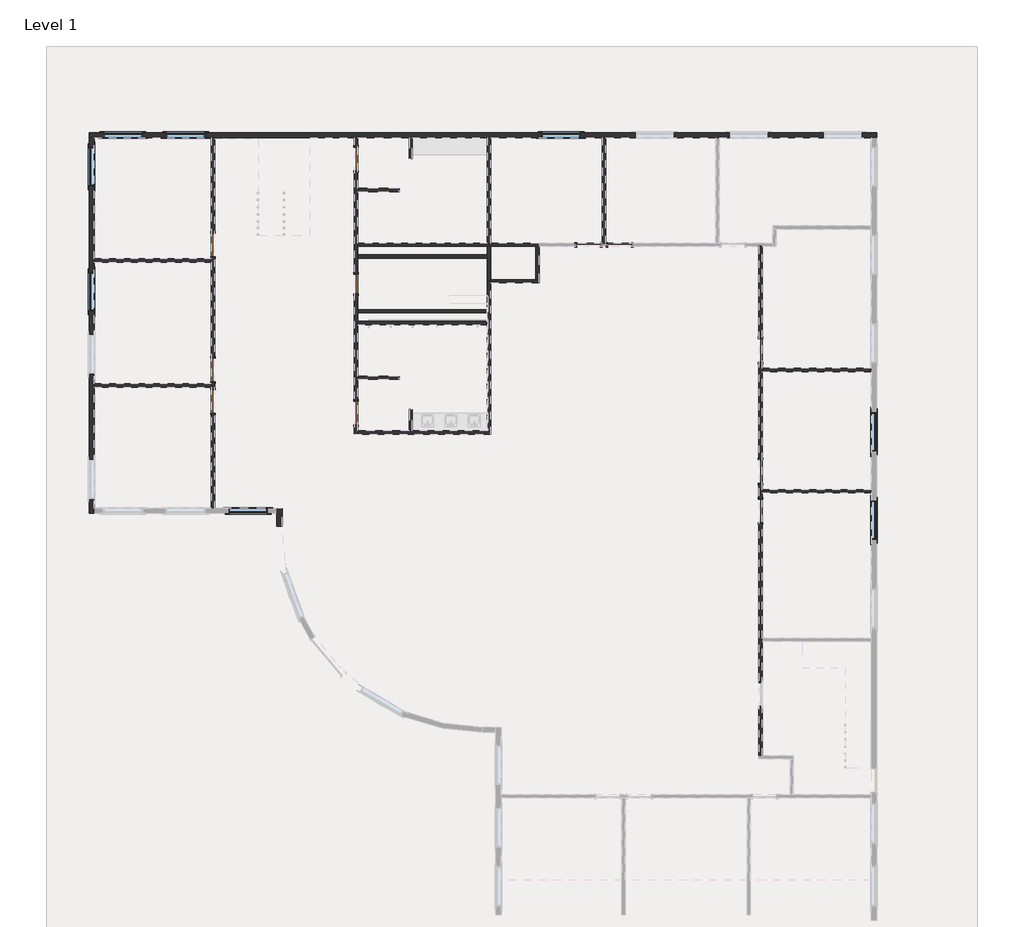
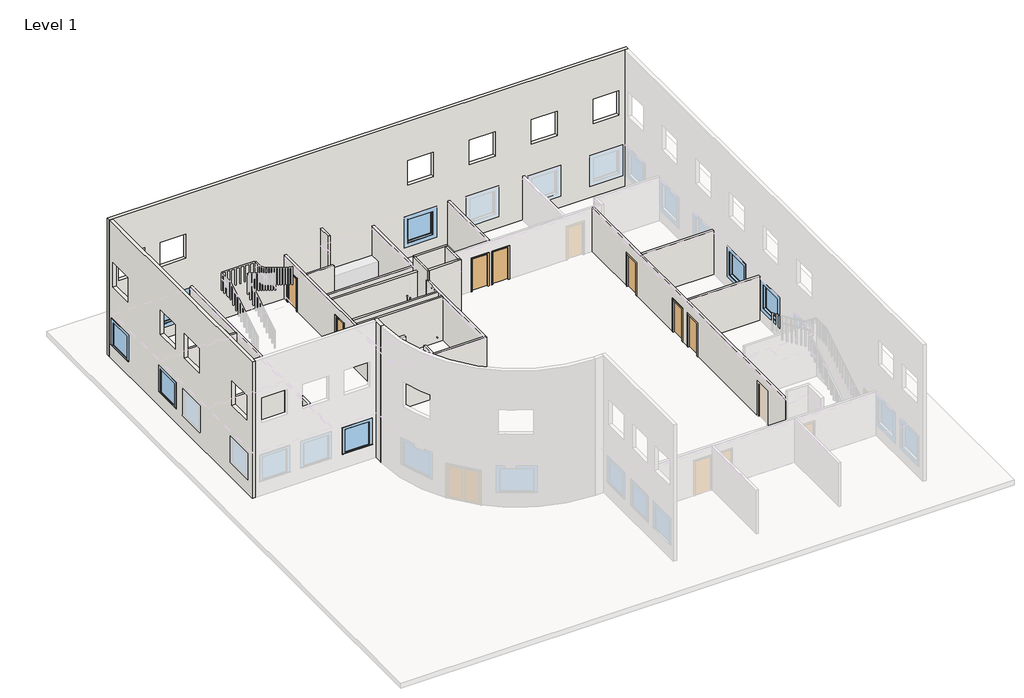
# One storey, part 2 of 4: 26 walls, 11 doors, 8 windows.
"""IFC4 building model written with IfcOpenShell, lengths in millimetres."""

from ifc_helpers import new_model, si_unit, origin, origin_with_axes, place, context, project, spatial, polyline, outline, extrude, faceted_brep, transform, mapped, element, save
from components import door_e36758a9, door_5c18bfee, door_bc81e0a2, door_eb9f8b14, door_88503111, fixed_51c72f20, fixed_edddcce4

model = new_model("IFC4")

# Units and contexts
model_context = context("Model", 3, world=origin())
ifc_project = project(units=[si_unit("LENGTHUNIT", "METRE", prefix="MILLI")], contexts=[model_context])

# Site, building, storey
site = spatial("IfcSite", under=ifc_project)
building = spatial("IfcBuilding", under=site)
storey = spatial("IfcBuildingStorey", under=building, Name="Level 1", Elevation=0.0)

# Doors
placement = place(None, origin())
door_shape = door_e36758a9(model_context)
element("IfcDoor", 1, ObjectType="Sgl Flush : 30\" x 84\"", at=placement, inside=storey, context=model_context, shape_type="MappedRepresentation", body=[
    mapped(door_shape, transform((5292.7157496, 9301.6099268, 0.0), x_axis=(0.0, 1.0, 0.0), y_axis=(-1.0, 0.0, 0.0), z_axis=(0.0, 0.0, 1.0))),
])
door_2_shape = door_5c18bfee(model_context)
element("IfcDoor", 2, ObjectType="Sgl Flush : 36\" x 80\"", at=placement, inside=storey, context=model_context, shape_type="MappedRepresentation", body=[
    mapped(door_2_shape, transform((5292.7157496, 14178.4099268, 0.0), x_axis=(0.0, 1.0, 0.0), y_axis=(-1.0, 0.0, 0.0), z_axis=(0.0, 0.0, 1.0))),
])
element("IfcDoor", 3, ObjectType="Sgl Flush : 36\" x 80\"", at=placement, inside=storey, context=model_context, shape_type="MappedRepresentation", body=[
    mapped(door_2_shape, transform((15567.0157496, 10825.6099268, 0.0), x_axis=(-1.0, 0.0, 0.0), y_axis=(0.0, -1.0, 0.0), z_axis=(0.0, 0.0, 1.0))),
])
element("IfcDoor", 4, ObjectType="Sgl Flush : 36\" x 80\"", at=placement, inside=storey, context=model_context, shape_type="MappedRepresentation", body=[
    mapped(door_2_shape, transform((21053.4157496, 462.4099268, 0.0), x_axis=(0.0, 1.0, 0.0), y_axis=(-1.0, 0.0, 0.0), z_axis=(0.0, 0.0, 1.0))),
])
door_3_shape = door_bc81e0a2(model_context)
element("IfcDoor", 5, ObjectType="Sgl Flush : 36\" x 80\"", at=placement, inside=storey, context=model_context, shape_type="MappedRepresentation", body=[
    mapped(door_3_shape, transform((5292.7157496, 4272.4099268, 0.0), x_axis=(0.0, -1.0, 0.0), y_axis=(1.0, 0.0, 0.0), z_axis=(0.0, 0.0, 1.0))),
])
element("IfcDoor", 6, ObjectType="Sgl Flush : 36\" x 80\"", at=placement, inside=storey, context=model_context, shape_type="MappedRepresentation", body=[
    mapped(door_3_shape, transform((14347.8157496, 10825.6099268, 0.0), x_axis=(1.0, 0.0, 0.0), y_axis=(0.0, 1.0, 0.0), z_axis=(0.0, 0.0, 1.0))),
])
element("IfcDoor", 7, ObjectType="Sgl Flush : 36\" x 80\"", at=placement, inside=storey, context=model_context, shape_type="MappedRepresentation", body=[
    mapped(door_3_shape, transform((21053.4157496, 6710.8099268, 0.0), x_axis=(0.0, -1.0, 0.0), y_axis=(1.0, 0.0, 0.0), z_axis=(0.0, 0.0, 1.0))),
])
element("IfcDoor", 8, ObjectType="Sgl Flush : 36\" x 80\"", at=placement, inside=storey, context=model_context, shape_type="MappedRepresentation", body=[
    mapped(door_3_shape, transform((21053.4157496, 1986.4099268, 0.0), x_axis=(0.0, -1.0, 0.0), y_axis=(1.0, 0.0, 0.0), z_axis=(0.0, 0.0, 1.0))),
])
door_4_shape = door_eb9f8b14(model_context)
element("IfcDoor", 9, ObjectType="Sgl Flush : 36\" x 84\"", at=placement, inside=storey, context=model_context, shape_type="MappedRepresentation", body=[
    mapped(door_4_shape, transform((-282.5842504, 10825.6099268, 0.0), x_axis=(0.0, -1.0, 0.0), y_axis=(1.0, 0.0, 0.0), z_axis=(0.0, 0.0, 1.0))),
])
element("IfcDoor", 10, ObjectType="Sgl Flush : 36\" x 84\"", at=placement, inside=storey, context=model_context, shape_type="MappedRepresentation", body=[
    mapped(door_4_shape, transform((-282.5842504, 5948.8099268, 0.0), x_axis=(0.0, -1.0, 0.0), y_axis=(1.0, 0.0, 0.0), z_axis=(0.0, 0.0, 1.0))),
])
door_5_shape = door_88503111(model_context)
element("IfcDoor", 11, ObjectType="Sgl Flush : 36\" x 84\"", at=placement, inside=storey, context=model_context, shape_type="MappedRepresentation", body=[
    mapped(door_5_shape, transform((-282.5842504, 4729.6099268, 0.0), x_axis=(0.0, 1.0, 0.0), y_axis=(-1.0, 0.0, 0.0), z_axis=(0.0, 0.0, 1.0))),
])

# Walls
element("IfcWall", 12, ObjectType="Generic - 8\"", at=placement, inside=storey, context=model_context, shape_type="Brep", body=[
    faceted_brep([(-5108.5842504, 14991.2099268, 0.0), (25371.4157496, 14991.2099268, 0.0), (25574.6157496, 14991.2099268, 0.0), (25574.6157496, 14991.2099268, 8534.4), (25371.4157496, 14991.2099268, 8534.4), (-5108.5842504, 14991.2099268, 8534.4), (25015.8157496, 14991.2099268, 2438.4), (25015.8157496, 14991.2099268, 914.4), (23491.8157496, 14991.2099268, 914.4), (23491.8157496, 14991.2099268, 2438.4), (21358.2157496, 14991.2099268, 2438.4), (21358.2157496, 14991.2099268, 914.4), (19834.2157496, 14991.2099268, 914.4), (19834.2157496, 14991.2099268, 2438.4), (17700.6157496, 14991.2099268, 2438.4), (17700.6157496, 14991.2099268, 914.4), (16176.6157496, 14991.2099268, 914.4), (16176.6157496, 14991.2099268, 2438.4), (12519.0157496, 14991.2099268, 2438.4), (14043.0157496, 14991.2099268, 2438.4), (14043.0157496, 14991.2099268, 914.4), (12519.0157496, 14991.2099268, 914.4), (-3025.7842504, 14991.2099268, 2438.4), (-3025.7842504, 14991.2099268, 914.4), (-4549.7842504, 14991.2099268, 914.4), (-4549.7842504, 14991.2099268, 2438.4), (-587.3842504, 14991.2099268, 2438.4), (-587.3842504, 14991.2099268, 914.4), (-2111.3842504, 14991.2099268, 914.4), (-2111.3842504, 14991.2099268, 2438.4), (-3025.7842504, 14991.2099268, 6096.0), (-3025.7842504, 14991.2099268, 4572.0), (-4549.7842504, 14991.2099268, 4572.0), (-4549.7842504, 14991.2099268, 6096.0), (-587.3842504, 14991.2099268, 6096.0), (-587.3842504, 14991.2099268, 4572.0), (-2111.3842504, 14991.2099268, 4572.0), (-2111.3842504, 14991.2099268, 6096.0), (14043.0157496, 14991.2099268, 6096.0), (14043.0157496, 14991.2099268, 4572.0), (12519.0157496, 14991.2099268, 4572.0), (12519.0157496, 14991.2099268, 6096.0), (17700.6157496, 14991.2099268, 6096.0), (17700.6157496, 14991.2099268, 4572.0), (16176.6157496, 14991.2099268, 4572.0), (16176.6157496, 14991.2099268, 6096.0), (21358.2157496, 14991.2099268, 6096.0), (21358.2157496, 14991.2099268, 4572.0), (19834.2157496, 14991.2099268, 4572.0), (19834.2157496, 14991.2099268, 6096.0), (25015.8157496, 14991.2099268, 6096.0), (25015.8157496, 14991.2099268, 4572.0), (23491.8157496, 14991.2099268, 4572.0), (23491.8157496, 14991.2099268, 6096.0), (-5108.5842504, 15194.4099268, 0.0), (-5108.5842504, 15194.4099268, 8534.4), (25574.6157496, 15194.4099268, 8534.4), (25574.6157496, 15194.4099268, 0.0), (25015.8157496, 15194.4099268, 2438.4), (23491.8157496, 15194.4099268, 2438.4), (23491.8157496, 15194.4099268, 914.4), (25015.8157496, 15194.4099268, 914.4), (21358.2157496, 15194.4099268, 2438.4), (19834.2157496, 15194.4099268, 2438.4), (19834.2157496, 15194.4099268, 914.4), (21358.2157496, 15194.4099268, 914.4), (17700.6157496, 15194.4099268, 2438.4), (16176.6157496, 15194.4099268, 2438.4), (16176.6157496, 15194.4099268, 914.4), (17700.6157496, 15194.4099268, 914.4), (12519.0157496, 15194.4099268, 2438.4), (12519.0157496, 15194.4099268, 914.4), (14043.0157496, 15194.4099268, 914.4), (14043.0157496, 15194.4099268, 2438.4), (-3025.7842504, 15194.4099268, 2438.4), (-4549.7842504, 15194.4099268, 2438.4), (-4549.7842504, 15194.4099268, 914.4), (-3025.7842504, 15194.4099268, 914.4), (-587.3842504, 15194.4099268, 2438.4), (-2111.3842504, 15194.4099268, 2438.4), (-2111.3842504, 15194.4099268, 914.4), (-587.3842504, 15194.4099268, 914.4), (-3025.7842504, 15194.4099268, 6096.0), (-4549.7842504, 15194.4099268, 6096.0), (-4549.7842504, 15194.4099268, 4572.0), (-3025.7842504, 15194.4099268, 4572.0), (-587.3842504, 15194.4099268, 6096.0), (-2111.3842504, 15194.4099268, 6096.0), (-2111.3842504, 15194.4099268, 4572.0), (-587.3842504, 15194.4099268, 4572.0), (14043.0157496, 15194.4099268, 6096.0), (12519.0157496, 15194.4099268, 6096.0), (12519.0157496, 15194.4099268, 4572.0), (14043.0157496, 15194.4099268, 4572.0), (17700.6157496, 15194.4099268, 6096.0), (16176.6157496, 15194.4099268, 6096.0), (16176.6157496, 15194.4099268, 4572.0), (17700.6157496, 15194.4099268, 4572.0), (21358.2157496, 15194.4099268, 6096.0), (19834.2157496, 15194.4099268, 6096.0), (19834.2157496, 15194.4099268, 4572.0), (21358.2157496, 15194.4099268, 4572.0), (25015.8157496, 15194.4099268, 6096.0), (23491.8157496, 15194.4099268, 6096.0), (23491.8157496, 15194.4099268, 4572.0), (25015.8157496, 15194.4099268, 4572.0)], [[[0, 1, 2, 3, 4, 5], [6, 7, 8, 9], [10, 11, 12, 13], [14, 15, 16, 17], [18, 19, 20, 21], [22, 23, 24, 25], [26, 27, 28, 29], [30, 31, 32, 33], [34, 35, 36, 37], [38, 39, 40, 41], [42, 43, 44, 45], [46, 47, 48, 49], [50, 51, 52, 53]], [[54, 55, 56, 57], [58, 59, 60, 61], [62, 63, 64, 65], [66, 67, 68, 69], [70, 71, 72, 73], [74, 75, 76, 77], [78, 79, 80, 81], [82, 83, 84, 85], [86, 87, 88, 89], [90, 91, 92, 93], [94, 95, 96, 97], [98, 99, 100, 101], [102, 103, 104, 105]], [[2, 1, 0, 54, 57]], [[5, 4, 3, 56, 55]], [[3, 2, 57, 56]], [[0, 5, 55, 54]], [[7, 6, 58, 61]], [[8, 7, 61, 60]], [[9, 8, 60, 59]], [[6, 9, 59, 58]], [[11, 10, 62, 65]], [[12, 11, 65, 64]], [[13, 12, 64, 63]], [[10, 13, 63, 62]], [[15, 14, 66, 69]], [[16, 15, 69, 68]], [[17, 16, 68, 67]], [[14, 17, 67, 66]], [[71, 70, 18, 21]], [[72, 71, 21, 20]], [[73, 72, 20, 19]], [[70, 73, 19, 18]], [[23, 22, 74, 77]], [[24, 23, 77, 76]], [[25, 24, 76, 75]], [[22, 25, 75, 74]], [[27, 26, 78, 81]], [[28, 27, 81, 80]], [[29, 28, 80, 79]], [[26, 29, 79, 78]], [[31, 30, 82, 85]], [[32, 31, 85, 84]], [[33, 32, 84, 83]], [[30, 33, 83, 82]], [[35, 34, 86, 89]], [[36, 35, 89, 88]], [[37, 36, 88, 87]], [[34, 37, 87, 86]], [[39, 38, 90, 93]], [[40, 39, 93, 92]], [[41, 40, 92, 91]], [[38, 41, 91, 90]], [[43, 42, 94, 97]], [[44, 43, 97, 96]], [[45, 44, 96, 95]], [[42, 45, 95, 94]], [[47, 46, 98, 101]], [[48, 47, 101, 100]], [[49, 48, 100, 99]], [[46, 49, 99, 98]], [[51, 50, 102, 105]], [[52, 51, 105, 104]], [[53, 52, 104, 103]], [[50, 53, 103, 102]]]),
])
element("IfcWall", 13, ObjectType="Generic - 8\"", at=placement, inside=storey, context=model_context, shape_type="Brep", body=[
    faceted_brep([(-4905.3842504, 360.8099268, 0.0), (-4905.3842504, 5275.7099268, 0.0), (-4905.3842504, 5402.7099268, 0.0), (-4905.3842504, 10152.5099268, 0.0), (-4905.3842504, 10279.5099268, 0.0), (-4905.3842504, 14991.2099268, 0.0), (-4905.3842504, 14991.2099268, 8534.4), (-4905.3842504, 360.8099268, 8534.4), (-4905.3842504, 13111.6099268, 2438.4), (-4905.3842504, 14635.6099268, 2438.4), (-4905.3842504, 14635.6099268, 914.4), (-4905.3842504, 13111.6099268, 914.4), (-4905.3842504, 8234.8099268, 2438.4), (-4905.3842504, 9758.8099268, 2438.4), (-4905.3842504, 9758.8099268, 914.4), (-4905.3842504, 8234.8099268, 914.4), (-4905.3842504, 5796.4099268, 2438.4), (-4905.3842504, 7320.4099268, 2438.4), (-4905.3842504, 7320.4099268, 914.4), (-4905.3842504, 5796.4099268, 914.4), (-4905.3842504, 919.6099268, 2438.4), (-4905.3842504, 2443.6099268, 2438.4), (-4905.3842504, 2443.6099268, 914.4), (-4905.3842504, 919.6099268, 914.4), (-4905.3842504, 14635.6099268, 6096.0), (-4905.3842504, 14635.6099268, 4572.0), (-4905.3842504, 13111.6099268, 4572.0), (-4905.3842504, 13111.6099268, 6096.0), (-4905.3842504, 8234.8099268, 6096.0), (-4905.3842504, 9758.8099268, 6096.0), (-4905.3842504, 9758.8099268, 4572.0), (-4905.3842504, 8234.8099268, 4572.0), (-4905.3842504, 7320.4099268, 6096.0), (-4905.3842504, 7320.4099268, 4572.0), (-4905.3842504, 5796.4099268, 4572.0), (-4905.3842504, 5796.4099268, 6096.0), (-4905.3842504, 2443.6099268, 6096.0), (-4905.3842504, 2443.6099268, 4572.0), (-4905.3842504, 919.6099268, 4572.0), (-4905.3842504, 919.6099268, 6096.0), (-5108.5842504, 360.8099268, 0.0), (-5108.5842504, 360.8099268, 8534.4), (-5108.5842504, 14991.2099268, 8534.4), (-5108.5842504, 14991.2099268, 0.0), (-5108.5842504, 13111.6099268, 2438.4), (-5108.5842504, 13111.6099268, 914.4), (-5108.5842504, 14635.6099268, 914.4), (-5108.5842504, 14635.6099268, 2438.4), (-5108.5842504, 8234.8099268, 2438.4), (-5108.5842504, 8234.8099268, 914.4), (-5108.5842504, 9758.8099268, 914.4), (-5108.5842504, 9758.8099268, 2438.4), (-5108.5842504, 5796.4099268, 2438.4), (-5108.5842504, 5796.4099268, 914.4), (-5108.5842504, 7320.4099268, 914.4), (-5108.5842504, 7320.4099268, 2438.4), (-5108.5842504, 919.6099268, 2438.4), (-5108.5842504, 919.6099268, 914.4), (-5108.5842504, 2443.6099268, 914.4), (-5108.5842504, 2443.6099268, 2438.4), (-5108.5842504, 14635.6099268, 6096.0), (-5108.5842504, 13111.6099268, 6096.0), (-5108.5842504, 13111.6099268, 4572.0), (-5108.5842504, 14635.6099268, 4572.0), (-5108.5842504, 8234.8099268, 6096.0), (-5108.5842504, 8234.8099268, 4572.0), (-5108.5842504, 9758.8099268, 4572.0), (-5108.5842504, 9758.8099268, 6096.0), (-5108.5842504, 7320.4099268, 6096.0), (-5108.5842504, 5796.4099268, 6096.0), (-5108.5842504, 5796.4099268, 4572.0), (-5108.5842504, 7320.4099268, 4572.0), (-5108.5842504, 2443.6099268, 6096.0), (-5108.5842504, 919.6099268, 6096.0), (-5108.5842504, 919.6099268, 4572.0), (-5108.5842504, 2443.6099268, 4572.0)], [[[0, 1, 2, 3, 4, 5, 6, 7], [8, 9, 10, 11], [12, 13, 14, 15], [16, 17, 18, 19], [20, 21, 22, 23], [24, 25, 26, 27], [28, 29, 30, 31], [32, 33, 34, 35], [36, 37, 38, 39]], [[40, 41, 42, 43], [44, 45, 46, 47], [48, 49, 50, 51], [52, 53, 54, 55], [56, 57, 58, 59], [60, 61, 62, 63], [64, 65, 66, 67], [68, 69, 70, 71], [72, 73, 74, 75]], [[5, 4, 3, 2, 1, 0, 40, 43]], [[7, 6, 42, 41]], [[0, 7, 41, 40]], [[6, 5, 43, 42]], [[45, 44, 8, 11]], [[46, 45, 11, 10]], [[47, 46, 10, 9]], [[44, 47, 9, 8]], [[49, 48, 12, 15]], [[50, 49, 15, 14]], [[51, 50, 14, 13]], [[48, 51, 13, 12]], [[53, 52, 16, 19]], [[54, 53, 19, 18]], [[55, 54, 18, 17]], [[52, 55, 17, 16]], [[57, 56, 20, 23]], [[58, 57, 23, 22]], [[59, 58, 22, 21]], [[56, 59, 21, 20]], [[25, 24, 60, 63]], [[26, 25, 63, 62]], [[27, 26, 62, 61]], [[24, 27, 61, 60]], [[65, 64, 28, 31]], [[66, 65, 31, 30]], [[67, 66, 30, 29]], [[64, 67, 29, 28]], [[33, 32, 68, 71]], [[34, 33, 71, 70]], [[35, 34, 70, 69]], [[32, 35, 69, 68]], [[37, 36, 72, 75]], [[38, 37, 75, 74]], [[39, 38, 74, 73]], [[36, 39, 73, 72]]]),
])
element("IfcWall", 14, ObjectType="Generic - 8\"", at=placement, inside=storey, context=model_context, shape_type="Brep", body=[
    faceted_brep([(2206.6157496, 564.0099268, 0.0), (2206.6157496, 360.8099268, 0.0), (2206.6157496, -147.1900732, 0.0), (2206.6157496, -147.1900732, 8534.4), (2206.6157496, 360.8099268, 8534.4), (2206.6157496, 564.0099268, 8534.4), (2409.8157496, 564.0099268, 0.0), (2409.8157496, 564.0099268, 8534.4), (2409.8157496, -147.1900732, 8534.4), (2409.8157496, -147.1900732, 0.0)], [[[0, 1, 2, 3, 4, 5]], [[6, 7, 8, 9]], [[2, 1, 0, 6, 9]], [[3, 2, 9, 8]], [[5, 4, 3, 8, 7]], [[0, 5, 7, 6]]]),
])
element("IfcWall", 15, ObjectType="Interior - 4 7/8\" Partition (1-hr)", at=placement, inside=storey, context=model_context, shape_type="Brep", body=[
    faceted_brep([(-344.4967504, 5491.6099268, 0.0), (-344.4967504, 5402.7099268, 0.0), (-344.4967504, 5275.7099268, 0.0), (-344.4967504, 5186.8099268, 0.0), (-344.4967504, 5186.8099268, 2133.6), (-344.4967504, 4272.4099268, 2133.6), (-344.4967504, 4272.4099268, 0.0), (-344.4967504, 564.0099268, 0.0), (-344.4967504, 564.0099268, 2743.2), (-344.4967504, 5275.7099268, 2743.2), (-344.4967504, 5402.7099268, 2743.2), (-344.4967504, 10152.5099268, 2743.2), (-344.4967504, 10279.5099268, 2743.2), (-344.4967504, 14991.2099268, 2743.2), (-344.4967504, 14991.2099268, 0.0), (-344.4967504, 11282.8099268, 0.0), (-344.4967504, 11282.8099268, 2133.6), (-344.4967504, 10368.4099268, 2133.6), (-344.4967504, 10368.4099268, 0.0), (-344.4967504, 10279.5099268, 0.0), (-344.4967504, 10152.5099268, 0.0), (-344.4967504, 6406.0099268, 0.0), (-344.4967504, 6406.0099268, 2133.6), (-344.4967504, 5491.6099268, 2133.6), (-220.6717504, 5186.8099268, 2133.6), (-220.6717504, 5186.8099268, 0.0), (-220.6717504, 5491.6099268, 0.0), (-220.6717504, 5491.6099268, 2133.6), (-220.6717504, 6406.0099268, 2133.6), (-220.6717504, 6406.0099268, 0.0), (-220.6717504, 10368.4099268, 0.0), (-220.6717504, 10368.4099268, 2133.6), (-220.6717504, 11282.8099268, 2133.6), (-220.6717504, 11282.8099268, 0.0), (-220.6717504, 14991.2099268, 0.0), (-220.6717504, 14991.2099268, 2743.2), (-220.6717504, 564.0099268, 2743.2), (-220.6717504, 564.0099268, 0.0), (-220.6717504, 4272.4099268, 0.0), (-220.6717504, 4272.4099268, 2133.6)], [[[0, 1, 2, 3, 4, 5, 6, 7, 8, 9, 10, 11, 12, 13, 14, 15, 16, 17, 18, 19, 20, 21, 22, 23]], [[24, 25, 26, 27, 28, 29, 30, 31, 32, 33, 34, 35, 36, 37, 38, 39]], [[26, 25, 3, 2, 1, 0]], [[15, 14, 34, 33]], [[21, 20, 19, 18, 30, 29]], [[38, 37, 7, 6]], [[13, 12, 11, 10, 9, 8, 36, 35]], [[14, 13, 35, 34]], [[8, 7, 37, 36]], [[31, 30, 18, 17]], [[32, 31, 17, 16]], [[33, 32, 16, 15]], [[27, 26, 0, 23]], [[28, 27, 23, 22]], [[29, 28, 22, 21]], [[4, 3, 25, 24]], [[5, 4, 24, 39]], [[6, 5, 39, 38]]]),
])
element("IfcWall", 16, ObjectType="Interior - 5\" Partition (2-hr)", at=placement, inside=storey, context=model_context, shape_type="SweptSolid", body=[
    extrude(outline(polyline([(-344.4967504, 10152.5099268), (-4905.3842504, 10152.5099268), (-4905.3842504, 10279.5099268), (-344.4967504, 10279.5099268), (-344.4967504, 10152.5099268)])), origin_with_axes(), (0.0, 0.0, 1.0), 2743.2),
])
element("IfcWall", 17, ObjectType="Interior - 5\" Partition (2-hr)", at=placement, inside=storey, context=model_context, shape_type="SweptSolid", body=[
    extrude(outline(polyline([(-344.4967504, 5275.7099268), (-4905.3842504, 5275.7099268), (-4905.3842504, 5402.7099268), (-344.4967504, 5402.7099268), (-344.4967504, 5275.7099268)])), origin_with_axes(), (0.0, 0.0, 1.0), 2743.2),
])
element("IfcWall", 18, ObjectType="Interior - 5\" Partition (2-hr)", at=placement, inside=storey, context=model_context, shape_type="Brep", body=[
    faceted_brep([(5229.2157496, 3815.2099268, 2032.0), (5229.2157496, 3815.2099268, 0.0), (5229.2157496, 3446.9099268, 0.0), (5229.2157496, 3446.9099268, 2743.2), (5229.2157496, 14991.2099268, 2743.2), (5229.2157496, 14991.2099268, 0.0), (5229.2157496, 14635.6099268, 0.0), (5229.2157496, 14635.6099268, 2032.0), (5229.2157496, 13721.2099268, 2032.0), (5229.2157496, 13721.2099268, 0.0), (5229.2157496, 9682.6099268, 0.0), (5229.2157496, 9682.6099268, 2133.6), (5229.2157496, 8920.6099268, 2133.6), (5229.2157496, 8920.6099268, 0.0), (5229.2157496, 4729.6099268, 0.0), (5229.2157496, 4729.6099268, 2032.0), (5356.2157496, 3446.9099268, 0.0), (5356.2157496, 3573.9099268, 0.0), (5356.2157496, 3815.2099268, 0.0), (5356.2157496, 3815.2099268, 2032.0), (5356.2157496, 4729.6099268, 2032.0), (5356.2157496, 4729.6099268, 0.0), (5356.2157496, 5580.5099268, 0.0), (5356.2157496, 5707.5099268, 0.0), (5356.2157496, 7714.1099268, 0.0), (5356.2157496, 7841.1099268, 0.0), (5356.2157496, 8171.3099268, 0.0), (5356.2157496, 8298.3099268, 0.0), (5356.2157496, 8920.6099268, 0.0), (5356.2157496, 8920.6099268, 2133.6), (5356.2157496, 9682.6099268, 2133.6), (5356.2157496, 9682.6099268, 0.0), (5356.2157496, 10304.9099268, 0.0), (5356.2157496, 10431.9099268, 0.0), (5356.2157496, 10762.1099268, 0.0), (5356.2157496, 10889.1099268, 0.0), (5356.2157496, 12895.7099268, 0.0), (5356.2157496, 13022.7099268, 0.0), (5356.2157496, 13721.2099268, 0.0), (5356.2157496, 13721.2099268, 2032.0), (5356.2157496, 14635.6099268, 2032.0), (5356.2157496, 14635.6099268, 0.0), (5356.2157496, 14991.2099268, 0.0), (5356.2157496, 14991.2099268, 2743.2), (5356.2157496, 13022.7099268, 2743.2), (5356.2157496, 12895.7099268, 2743.2), (5356.2157496, 10889.1099268, 2743.2), (5356.2157496, 10762.1099268, 2743.2), (5356.2157496, 10431.9099268, 2743.2), (5356.2157496, 10304.9099268, 2743.2), (5356.2157496, 8298.3099268, 2743.2), (5356.2157496, 8171.3099268, 2743.2), (5356.2157496, 7841.1099268, 2743.2), (5356.2157496, 7714.1099268, 2743.2), (5356.2157496, 5707.5099268, 2743.2), (5356.2157496, 5580.5099268, 2743.2), (5356.2157496, 3573.9099268, 2743.2), (5356.2157496, 3446.9099268, 2743.2)], [[[0, 1, 2, 3, 4, 5, 6, 7, 8, 9, 10, 11, 12, 13, 14, 15]], [[16, 17, 18, 19, 20, 21, 22, 23, 24, 25, 26, 27, 28, 29, 30, 31, 32, 33, 34, 35, 36, 37, 38, 39, 40, 41, 42, 43, 44, 45, 46, 47, 48, 49, 50, 51, 52, 53, 54, 55, 56, 57]], [[42, 41, 6, 5]], [[2, 1, 18, 17, 16]], [[38, 37, 36, 35, 34, 33, 32, 31, 10, 9]], [[14, 13, 28, 27, 26, 25, 24, 23, 22, 21]], [[4, 3, 57, 56, 55, 54, 53, 52, 51, 50, 49, 48, 47, 46, 45, 44, 43]], [[3, 2, 16, 57]], [[5, 4, 43, 42]], [[11, 10, 31, 30]], [[12, 11, 30, 29]], [[13, 12, 29, 28]], [[7, 6, 41, 40]], [[8, 7, 40, 39]], [[9, 8, 39, 38]], [[19, 18, 1, 0]], [[20, 19, 0, 15]], [[21, 20, 15, 14]]]),
])
element("IfcWall", 19, ObjectType="Interior - 5\" Partition (2-hr)", at=placement, inside=storey, context=model_context, shape_type="Brep", body=[
    faceted_brep([(10410.8157496, 14991.2099268, 0.0), (10410.8157496, 10889.1099268, 0.0), (10410.8157496, 10889.1099268, 2743.2), (10410.8157496, 14991.2099268, 2743.2), (10537.8157496, 14991.2099268, 0.0), (10537.8157496, 14991.2099268, 2743.2), (10537.8157496, 10889.1099268, 2743.2), (10537.8157496, 10889.1099268, 0.0), (10474.3157496, 10889.1099268, 0.0), (10474.3157496, 10889.1099268, 2743.2)], [[[0, 1, 2, 3]], [[4, 5, 6, 7]], [[1, 0, 4, 7, 8]], [[3, 2, 9, 6, 5]], [[0, 3, 5, 4]], [[2, 1, 8, 7, 6, 9]]]),
])
element("IfcWall", 20, ObjectType="Interior - 5\" Partition (2-hr)", at=placement, inside=storey, context=model_context, shape_type="SweptSolid", body=[
    extrude(outline(polyline([(14893.9157496, 10889.1099268), (14893.9157496, 14991.2099268), (15020.9157496, 14991.2099268), (15020.9157496, 10889.1099268), (14893.9157496, 10889.1099268)])), origin_with_axes(), (0.0, 0.0, 1.0), 2743.2),
])
element("IfcWall", 21, ObjectType="Interior - 5\" Partition (2-hr)", at=placement, inside=storey, context=model_context, shape_type="Brep", body=[
    faceted_brep([(5356.2157496, 10762.1099268, 0.0), (10410.8157496, 10762.1099268, 0.0), (10474.3157496, 10762.1099268, 0.0), (10474.3157496, 10762.1099268, 2743.2), (5356.2157496, 10762.1099268, 2743.2), (5356.2157496, 10889.1099268, 0.0), (5356.2157496, 10889.1099268, 2743.2), (10410.8157496, 10889.1099268, 2743.2), (10474.3157496, 10889.1099268, 2743.2), (10474.3157496, 10889.1099268, 0.0), (10410.8157496, 10889.1099268, 0.0)], [[[0, 1, 2, 3, 4]], [[5, 6, 7, 8, 9, 10]], [[2, 1, 0, 5, 10, 9]], [[3, 2, 9, 8]], [[4, 3, 8, 7, 6]], [[0, 4, 6, 5]]]),
])
element("IfcWall", 22, ObjectType="Interior - 5\" Partition (2-hr)", at=placement, inside=storey, context=model_context, shape_type="Brep", body=[
    faceted_brep([(20989.9157496, 1529.2099268, 0.0), (20989.9157496, 919.6099268, 0.0), (20989.9157496, 919.6099268, 2032.0), (20989.9157496, 5.2099268, 2032.0), (20989.9157496, 5.2099268, 0.0), (20989.9157496, -6243.1900732, 0.0), (20989.9157496, -6243.1900732, 2133.6), (20989.9157496, -7157.5900732, 2133.6), (20989.9157496, -7157.5900732, 0.0), (20989.9157496, -9075.2900732, 0.0), (20989.9157496, -9075.2900732, 2743.2), (20989.9157496, 10762.1099268, 2743.2), (20989.9157496, 10762.1099268, 0.0), (20989.9157496, 7168.0099268, 0.0), (20989.9157496, 7168.0099268, 2032.0), (20989.9157496, 6253.6099268, 2032.0), (20989.9157496, 6253.6099268, 0.0), (20989.9157496, 2443.6099268, 0.0), (20989.9157496, 2443.6099268, 2032.0), (20989.9157496, 1529.2099268, 2032.0), (21116.9157496, 919.6099268, 2032.0), (21116.9157496, 919.6099268, 0.0), (21116.9157496, 1160.9099268, 0.0), (21116.9157496, 1287.9099268, 0.0), (21116.9157496, 1529.2099268, 0.0), (21116.9157496, 1529.2099268, 2032.0), (21116.9157496, 2443.6099268, 2032.0), (21116.9157496, 2443.6099268, 0.0), (21116.9157496, 5885.3099268, 0.0), (21116.9157496, 6012.3099268, 0.0), (21116.9157496, 6253.6099268, 0.0), (21116.9157496, 6253.6099268, 2032.0), (21116.9157496, 7168.0099268, 2032.0), (21116.9157496, 7168.0099268, 0.0), (21116.9157496, 10762.1099268, 0.0), (21116.9157496, 10762.1099268, 2743.2), (21116.9157496, 6012.3099268, 2743.2), (21116.9157496, 5885.3099268, 2743.2), (21116.9157496, 1287.9099268, 2743.2), (21116.9157496, 1160.9099268, 2743.2), (21116.9157496, -9075.2900732, 2743.2), (21116.9157496, -9075.2900732, 0.0), (21116.9157496, -7157.5900732, 0.0), (21116.9157496, -7157.5900732, 2133.6), (21116.9157496, -6243.1900732, 2133.6), (21116.9157496, -6243.1900732, 0.0), (21116.9157496, -4630.2900732, 0.0), (21116.9157496, -4503.2900732, 0.0), (21116.9157496, 5.2099268, 0.0), (21116.9157496, 5.2099268, 2032.0)], [[[0, 1, 2, 3, 4, 5, 6, 7, 8, 9, 10, 11, 12, 13, 14, 15, 16, 17, 18, 19]], [[20, 21, 22, 23, 24, 25, 26, 27, 28, 29, 30, 31, 32, 33, 34, 35, 36, 37, 38, 39, 40, 41, 42, 43, 44, 45, 46, 47, 48, 49]], [[9, 8, 42, 41]], [[24, 23, 22, 21, 1, 0]], [[13, 12, 34, 33]], [[17, 16, 30, 29, 28, 27]], [[48, 47, 46, 45, 5, 4]], [[11, 10, 40, 39, 38, 37, 36, 35]], [[12, 11, 35, 34]], [[10, 9, 41, 40]], [[43, 42, 8, 7]], [[44, 43, 7, 6]], [[45, 44, 6, 5]], [[31, 30, 16, 15]], [[32, 31, 15, 14]], [[33, 32, 14, 13]], [[25, 24, 0, 19]], [[26, 25, 19, 18]], [[27, 26, 18, 17]], [[2, 1, 21, 20]], [[3, 2, 20, 49]], [[4, 3, 49, 48]]]),
])
element("IfcWall", 23, ObjectType="Interior - 5\" Partition (2-hr)", at=placement, inside=storey, context=model_context, shape_type="SweptSolid", body=[
    extrude(outline(polyline([(25371.4157496, 5885.3099268), (21116.9157496, 5885.3099268), (21116.9157496, 6012.3099268), (25371.4157496, 6012.3099268), (25371.4157496, 5885.3099268)])), origin_with_axes(), (0.0, 0.0, 1.0), 2743.2),
])
element("IfcWall", 24, ObjectType="Interior - 5\" Partition (2-hr)", at=placement, inside=storey, context=model_context, shape_type="SweptSolid", body=[
    extrude(outline(polyline([(25371.4157496, 1160.9099268), (21116.9157496, 1160.9099268), (21116.9157496, 1287.9099268), (25371.4157496, 1287.9099268), (25371.4157496, 1160.9099268)])), origin_with_axes(), (0.0, 0.0, 1.0), 2743.2),
])
element("IfcWall", 25, ObjectType="Interior - 5\" Partition (2-hr)", at=placement, inside=storey, context=model_context, shape_type="Brep", body=[
    faceted_brep([(5356.2157496, 3446.9099268, 0.0), (10537.8157496, 3446.9099268, 0.0), (10537.8157496, 3446.9099268, 2743.2), (5356.2157496, 3446.9099268, 2743.2), (5356.2157496, 3573.9099268, 0.0), (5356.2157496, 3573.9099268, 2743.2), (7362.8157496, 3573.9099268, 2743.2), (7489.8157496, 3573.9099268, 2743.2), (10410.8157496, 3573.9099268, 2743.2), (10537.8157496, 3573.9099268, 2743.2), (10537.8157496, 3573.9099268, 0.0), (10410.8157496, 3573.9099268, 0.0), (7489.8157496, 3573.9099268, 0.0), (7362.8157496, 3573.9099268, 0.0)], [[[0, 1, 2, 3]], [[4, 5, 6, 7, 8, 9, 10, 11, 12, 13]], [[1, 0, 4, 13, 12, 11, 10]], [[3, 2, 9, 8, 7, 6, 5]], [[2, 1, 10, 9]], [[0, 3, 5, 4]]]),
])
element("IfcWall", 26, ObjectType="Interior - 5\" Partition (2-hr)", at=placement, inside=storey, context=model_context, shape_type="Brep", body=[
    faceted_brep([(10537.8157496, 3573.9099268, 0.0), (10537.8157496, 9339.7099268, 0.0), (10537.8157496, 9403.2099268, 0.0), (10537.8157496, 9403.2099268, 2743.2), (10537.8157496, 9339.7099268, 2743.2), (10537.8157496, 3573.9099268, 2743.2), (10410.8157496, 3573.9099268, 0.0), (10410.8157496, 3573.9099268, 2743.2), (10410.8157496, 7714.1099268, 2743.2), (10410.8157496, 7841.1099268, 2743.2), (10410.8157496, 8171.3099268, 2743.2), (10410.8157496, 8298.3099268, 2743.2), (10410.8157496, 9339.7099268, 2743.2), (10410.8157496, 9403.2099268, 2743.2), (10410.8157496, 9403.2099268, 0.0), (10410.8157496, 8298.3099268, 0.0), (10410.8157496, 8171.3099268, 0.0), (10410.8157496, 7841.1099268, 0.0), (10410.8157496, 7714.1099268, 0.0)], [[[0, 1, 2, 3, 4, 5]], [[6, 7, 8, 9, 10, 11, 12, 13, 14, 15, 16, 17, 18]], [[2, 1, 0, 6, 18, 17, 16, 15, 14]], [[3, 2, 14, 13]], [[5, 4, 3, 13, 12, 11, 10, 9, 8, 7]], [[0, 5, 7, 6]]]),
])
element("IfcWall", 27, ObjectType="Interior - 5\" Partition (2-hr)", at=placement, inside=storey, context=model_context, shape_type="SweptSolid", body=[
    extrude(outline(polyline([(6969.1157496, 12895.7099268), (5356.2157496, 12895.7099268), (5356.2157496, 13022.7099268), (6969.1157496, 13022.7099268), (6969.1157496, 12895.7099268)])), origin_with_axes(), (0.0, 0.0, 1.0), 2743.2),
])
element("IfcWall", 28, ObjectType="Interior - 5\" Partition (2-hr)", at=placement, inside=storey, context=model_context, shape_type="SweptSolid", body=[
    extrude(outline(polyline([(6969.1157496, 5580.5099268), (5356.2157496, 5580.5099268), (5356.2157496, 5707.5099268), (6969.1157496, 5707.5099268), (6969.1157496, 5580.5099268)])), origin_with_axes(), (0.0, 0.0, 1.0), 2743.2),
])
element("IfcWall", 29, ObjectType="Interior - 5\" Partition (2-hr)", at=placement, inside=storey, context=model_context, shape_type="SweptSolid", body=[
    extrude(outline(polyline([(10410.8157496, 7714.1099268), (5356.2157496, 7714.1099268), (5356.2157496, 7841.1099268), (10410.8157496, 7841.1099268), (10410.8157496, 7714.1099268)])), origin_with_axes(), (0.0, 0.0, 1.0), 2743.2),
])
element("IfcWall", 30, ObjectType="Interior - 5\" Partition (2-hr)", at=placement, inside=storey, context=model_context, shape_type="SweptSolid", body=[
    extrude(outline(polyline([(7489.8157496, 4424.8099268), (7489.8157496, 3573.9099268), (7362.8157496, 3573.9099268), (7362.8157496, 4424.8099268), (7489.8157496, 4424.8099268)])), origin_with_axes(), (0.0, 0.0, 1.0), 2743.2),
])
element("IfcWall", 31, ObjectType="Interior - 5\" Partition (2-hr)", at=placement, inside=storey, context=model_context, shape_type="SweptSolid", body=[
    extrude(outline(polyline([(7362.8157496, 14178.4099268), (7362.8157496, 14991.2099268), (7489.8157496, 14991.2099268), (7489.8157496, 14178.4099268), (7362.8157496, 14178.4099268)])), origin_with_axes(), (0.0, 0.0, 1.0), 3657.6),
])
element("IfcWall", 32, ObjectType="Interior - 5\" Partition (2-hr)", at=placement, inside=storey, context=model_context, shape_type="Brep", body=[
    faceted_brep([(10537.8157496, 9339.7099268, 3352.8), (10537.8157496, 9339.7099268, 2743.2), (10537.8157496, 9339.7099268, 0.0), (12430.1157496, 9339.7099268, 0.0), (12430.1157496, 9339.7099268, 3352.8), (10537.8157496, 9466.7099268, 0.0), (10537.8157496, 9466.7099268, 3352.8), (12303.1157496, 9466.7099268, 3352.8), (12430.1157496, 9466.7099268, 3352.8), (12430.1157496, 9466.7099268, 0.0), (12303.1157496, 9466.7099268, 0.0), (10537.8157496, 9403.2099268, 0.0)], [[[0, 1, 2, 3, 4]], [[5, 6, 7, 8, 9, 10]], [[3, 2, 11, 5, 10, 9]], [[4, 3, 9, 8]], [[0, 6, 5, 11, 2, 1]], [[0, 4, 8, 7, 6]]]),
])
element("IfcWall", 33, ObjectType="Interior - 5\" Partition (2-hr)", at=placement, inside=storey, context=model_context, shape_type="Brep", body=[
    faceted_brep([(12430.1157496, 9466.7099268, 0.0), (12430.1157496, 10762.1099268, 0.0), (12430.1157496, 10762.1099268, 2743.2), (12430.1157496, 10762.1099268, 3352.8), (12430.1157496, 9466.7099268, 3352.8), (12303.1157496, 9466.7099268, 0.0), (12303.1157496, 9466.7099268, 3352.8), (12303.1157496, 10762.1099268, 3352.8), (12303.1157496, 10762.1099268, 0.0), (12366.6157496, 10762.1099268, 0.0)], [[[0, 1, 2, 3, 4]], [[5, 6, 7, 8]], [[1, 0, 5, 8, 9]], [[0, 4, 6, 5]], [[1, 9, 8, 7, 3, 2]], [[4, 3, 7, 6]]]),
])
element("IfcWall", 34, ObjectType="Interior - 5\" Partition (2-hr)", at=placement, inside=storey, context=model_context, shape_type="Brep", body=[
    faceted_brep([(10537.8157496, 9403.2099268, 0.0), (10537.8157496, 9466.7099268, 0.0), (10537.8157496, 10762.1099268, 0.0), (10537.8157496, 10762.1099268, 3352.8), (10537.8157496, 9466.7099268, 3352.8), (10537.8157496, 9339.7099268, 3352.8), (10537.8157496, 9339.7099268, 2743.2), (10537.8157496, 9403.2099268, 2743.2), (10410.8157496, 9403.2099268, 0.0), (10410.8157496, 9403.2099268, 2743.2), (10410.8157496, 9339.7099268, 2743.2), (10410.8157496, 9339.7099268, 3352.8), (10410.8157496, 10762.1099268, 3352.8), (10410.8157496, 10762.1099268, 0.0), (10410.8157496, 10431.9099268, 0.0), (10410.8157496, 10304.9099268, 0.0), (10474.3157496, 10762.1099268, 0.0), (10474.3157496, 10762.1099268, 3352.8)], [[[0, 1, 2, 3, 4, 5, 6, 7]], [[8, 9, 10, 11, 12, 13, 14, 15]], [[2, 1, 0, 8, 15, 14, 13, 16]], [[0, 7, 9, 8]], [[6, 10, 9, 7]], [[6, 5, 11, 10]], [[3, 2, 16, 13, 12, 17]], [[5, 4, 3, 17, 12, 11]]]),
])
element("IfcWall", 35, ObjectType="Interior - 5\" Partition (2-hr)", at=placement, inside=storey, context=model_context, shape_type="Brep", body=[
    faceted_brep([(10474.3157496, 10762.1099268, 0.0), (10537.8157496, 10762.1099268, 0.0), (12303.1157496, 10762.1099268, 0.0), (12366.6157496, 10762.1099268, 0.0), (12366.6157496, 10762.1099268, 2743.2), (12430.1157496, 10762.1099268, 2743.2), (12430.1157496, 10762.1099268, 3352.8), (12303.1157496, 10762.1099268, 3352.8), (10537.8157496, 10762.1099268, 3352.8), (10474.3157496, 10762.1099268, 3352.8), (10474.3157496, 10762.1099268, 2743.2), (10474.3157496, 10889.1099268, 0.0), (10474.3157496, 10889.1099268, 2743.2), (10474.3157496, 10889.1099268, 3352.8), (12430.1157496, 10889.1099268, 3352.8), (12430.1157496, 10889.1099268, 2743.2), (12366.6157496, 10889.1099268, 2743.2), (12366.6157496, 10889.1099268, 0.0), (10537.8157496, 10889.1099268, 0.0)], [[[0, 1, 2, 3, 4, 5, 6, 7, 8, 9, 10]], [[11, 12, 13, 14, 15, 16, 17, 18]], [[3, 2, 1, 0, 11, 18, 17]], [[0, 10, 9, 13, 12, 11]], [[4, 3, 17, 16]], [[15, 5, 4, 16]], [[6, 5, 15, 14]], [[9, 8, 7, 6, 14, 13]]]),
])
element("IfcWall", 36, ObjectType="Interior - 5\" Partition (2-hr)", at=placement, inside=storey, context=model_context, shape_type="SweptSolid", body=[
    extrude(outline(polyline([(10410.8157496, 10304.9099268), (5356.2157496, 10304.9099268), (5356.2157496, 10431.9099268), (10410.8157496, 10431.9099268), (10410.8157496, 10304.9099268)])), origin_with_axes(), (0.0, 0.0, 1.0), 2743.2),
])
element("IfcWall", 37, ObjectType="Interior - 5\" Partition (2-hr)", at=placement, inside=storey, context=model_context, shape_type="SweptSolid", body=[
    extrude(outline(polyline([(10410.8157496, 8171.3099268), (5356.2157496, 8171.3099268), (5356.2157496, 8298.3099268), (10410.8157496, 8298.3099268), (10410.8157496, 8171.3099268)])), origin_with_axes(), (0.0, 0.0, 1.0), 2743.2),
])

# Windows
fixed_shape = fixed_51c72f20(model_context)
element("IfcWindow", 38, ObjectType="Fixed : 60\"w x 60\"h", at=placement, inside=storey, context=model_context, shape_type="MappedRepresentation", body=[
    mapped(fixed_shape, transform((25473.0157496, 3578.6724268, 0.0), x_axis=(0.0, 1.0, 0.0), y_axis=(-1.0, 0.0, 0.0), z_axis=(0.0, 0.0, 1.0))),
])
element("IfcWindow", 39, ObjectType="Fixed : 60\"w x 60\"h", at=placement, inside=storey, context=model_context, shape_type="MappedRepresentation", body=[
    mapped(fixed_shape, transform((13242.9157496, 15092.8099268, 0.0), x_axis=(-1.0, 0.0, 0.0), y_axis=(0.0, -1.0, 0.0), z_axis=(0.0, 0.0, 1.0))),
])
element("IfcWindow", 40, ObjectType="Fixed : 60\"w x 60\"h", at=placement, inside=storey, context=model_context, shape_type="MappedRepresentation", body=[
    mapped(fixed_shape, transform((1127.1157496, 462.4099268, 0.0), x_axis=(1.0, 0.0, 0.0), y_axis=(0.0, 1.0, 0.0), z_axis=(0.0, 0.0, 1.0))),
])
element("IfcWindow", 41, ObjectType="Fixed : 60\"w x 60\"h", at=placement, inside=storey, context=model_context, shape_type="MappedRepresentation", body=[
    mapped(fixed_shape, transform((-5006.9842504, 13835.5099268, 0.0), x_axis=(0.0, -1.0, 0.0), y_axis=(1.0, 0.0, 0.0), z_axis=(0.0, 0.0, 1.0))),
])
element("IfcWindow", 42, ObjectType="Fixed : 60\"w x 60\"h", at=placement, inside=storey, context=model_context, shape_type="MappedRepresentation", body=[
    mapped(fixed_shape, transform((-5006.9842504, 8958.7099268, 0.0), x_axis=(0.0, -1.0, 0.0), y_axis=(1.0, 0.0, 0.0), z_axis=(0.0, 0.0, 1.0))),
])
fixed_2_shape = fixed_edddcce4(model_context)
element("IfcWindow", 43, ObjectType="Fixed : 60\"w x 60\"h", at=placement, inside=storey, context=model_context, shape_type="MappedRepresentation", body=[
    mapped(fixed_2_shape, transform((25473.0157496, 58.3911768, 0.0), x_axis=(0.0, -1.0, 0.0), y_axis=(1.0, 0.0, 0.0), z_axis=(0.0, 0.0, 1.0))),
])
element("IfcWindow", 44, ObjectType="Fixed : 60\"w x 60\"h", at=placement, inside=storey, context=model_context, shape_type="MappedRepresentation", body=[
    mapped(fixed_2_shape, transform((-3749.6842504, 15092.8099268, 0.0), x_axis=(1.0, 0.0, 0.0), y_axis=(0.0, 1.0, 0.0), z_axis=(0.0, 0.0, 1.0))),
])
element("IfcWindow", 45, ObjectType="Fixed : 60\"w x 60\"h", at=placement, inside=storey, context=model_context, shape_type="MappedRepresentation", body=[
    mapped(fixed_2_shape, transform((-1311.2842504, 15092.8099268, 0.0), x_axis=(1.0, 0.0, 0.0), y_axis=(0.0, 1.0, 0.0), z_axis=(0.0, 0.0, 1.0))),
])

save(model, "model.ifc")
